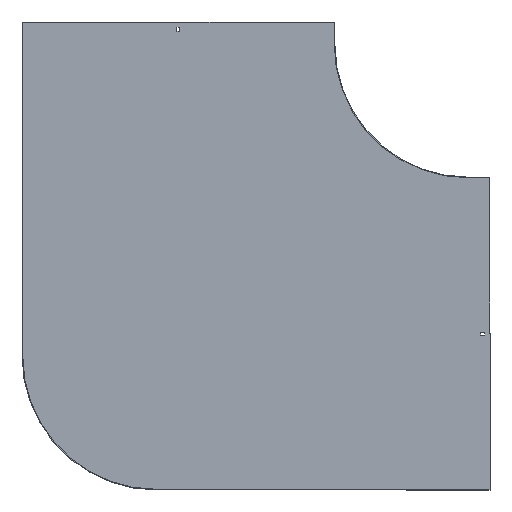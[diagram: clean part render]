
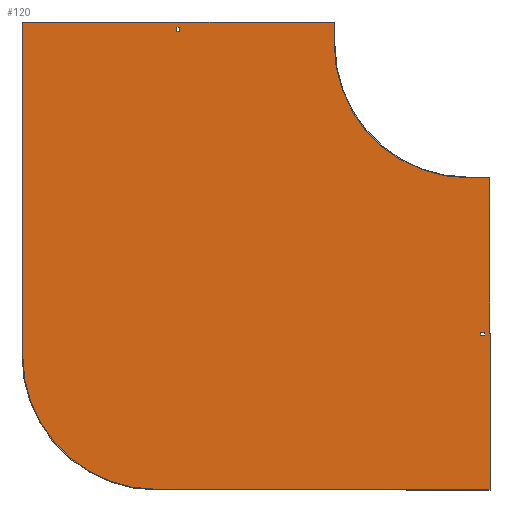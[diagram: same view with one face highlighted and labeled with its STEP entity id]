
A CAD part, front view. The second image highlights one B-rep face of the part: STEP entity #120.
In plain terms, the highlighted planar face has unit normal (0, -1, 0).
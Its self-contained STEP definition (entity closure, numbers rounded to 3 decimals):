
#1 = ORIENTED_EDGE ( 'NONE', *, *, #537, .F. ) ;
#2 = DIRECTION ( 'NONE',  ( 0., 0., -1. ) ) ;
#3 = EDGE_LOOP ( 'NONE', ( #56, #470, #756, #598 ) ) ;
#17 = VERTEX_POINT ( 'NONE', #231 ) ;
#19 = CARTESIAN_POINT ( 'NONE',  ( 50., -1.5, -1000. ) ) ;
#23 = AXIS2_PLACEMENT_3D ( 'NONE', #448, #400, #308 ) ;
#36 = CARTESIAN_POINT ( 'NONE',  ( -653.25, -1.5, 38. ) ) ;
#43 = EDGE_CURVE ( 'NONE', #776, #17, #712, .T. ) ;
#56 = ORIENTED_EDGE ( 'NONE', *, *, #487, .F. ) ;
#57 = DIRECTION ( 'NONE',  ( -1., 0., 0. ) ) ;
#60 = CARTESIAN_POINT ( 'NONE',  ( 0., -1.5, 0. ) ) ;
#69 = VERTEX_POINT ( 'NONE', #302 ) ;
#76 = ORIENTED_EDGE ( 'NONE', *, *, #235, .F. ) ;
#81 = VECTOR ( 'NONE', #214, 1000. ) ;
#85 = CARTESIAN_POINT ( 'NONE',  ( 0., -1.5, -653.25 ) ) ;
#87 = ORIENTED_EDGE ( 'NONE', *, *, #684, .F. ) ;
#96 = ORIENTED_EDGE ( 'NONE', *, *, #648, .T. ) ;
#98 = CARTESIAN_POINT ( 'NONE',  ( 0., -1.5, 0. ) ) ;
#100 = VERTEX_POINT ( 'NONE', #637 ) ;
#105 = ORIENTED_EDGE ( 'NONE', *, *, #394, .T. ) ;
#112 = EDGE_LOOP ( 'NONE', ( #841, #256, #747, #87, #144, #1, #76, #266 ) ) ;
#120 = ADVANCED_FACE ( 'NONE', ( #449, #441, #174 ), #523, .T. ) ;
#125 = CARTESIAN_POINT ( 'NONE',  ( -1001.5, -1.5, 50. ) ) ;
#144 = ORIENTED_EDGE ( 'NONE', *, *, #506, .F. ) ;
#151 = CARTESIAN_POINT ( 'NONE',  ( 0., -1.5, -646.75 ) ) ;
#165 = LINE ( 'NONE', #432, #797 ) ;
#167 = DIRECTION ( 'NONE',  ( 0., -1., 0. ) ) ;
#174 = FACE_BOUND ( 'NONE', #614, .T. ) ;
#175 = VERTEX_POINT ( 'NONE', #676 ) ;
#185 = VERTEX_POINT ( 'NONE', #375 ) ;
#193 = VERTEX_POINT ( 'NONE', #858 ) ;
#198 = LINE ( 'NONE', #125, #735 ) ;
#214 = DIRECTION ( 'NONE',  ( 1., 0., 0. ) ) ;
#217 = CARTESIAN_POINT ( 'NONE',  ( 29., -1.5, -646.75 ) ) ;
#219 = DIRECTION ( 'NONE',  ( 1., 0., 0. ) ) ;
#223 = DIRECTION ( 'NONE',  ( -1., 0., 0. ) ) ;
#224 = CARTESIAN_POINT ( 'NONE',  ( -1000., -1.5, -700. ) ) ;
#231 = CARTESIAN_POINT ( 'NONE',  ( -646.75, -1.5, 38. ) ) ;
#235 = EDGE_CURVE ( 'NONE', #790, #69, #762, .T. ) ;
#245 = LINE ( 'NONE', #704, #581 ) ;
#251 = CARTESIAN_POINT ( 'NONE',  ( -300., -1.5, 0. ) ) ;
#256 = ORIENTED_EDGE ( 'NONE', *, *, #268, .F. ) ;
#266 = ORIENTED_EDGE ( 'NONE', *, *, #655, .F. ) ;
#268 = EDGE_CURVE ( 'NONE', #862, #633, #654, .T. ) ;
#275 = CARTESIAN_POINT ( 'NONE',  ( -300., -1.5, 50. ) ) ;
#276 = CARTESIAN_POINT ( 'NONE',  ( 29., -1.5, -653.25 ) ) ;
#281 = CARTESIAN_POINT ( 'NONE',  ( 38., -1.5, -646.75 ) ) ;
#286 = DIRECTION ( 'NONE',  ( -1., 0., 0. ) ) ;
#287 = CARTESIAN_POINT ( 'NONE',  ( 50., -1.5, -298.5 ) ) ;
#292 = LINE ( 'NONE', #151, #301 ) ;
#300 = EDGE_CURVE ( 'NONE', #100, #185, #397, .T. ) ;
#301 = VECTOR ( 'NONE', #223, 1000. ) ;
#302 = CARTESIAN_POINT ( 'NONE',  ( 0., -1.5, -300. ) ) ;
#308 = DIRECTION ( 'NONE',  ( 0., 0., -1. ) ) ;
#316 = ORIENTED_EDGE ( 'NONE', *, *, #300, .T. ) ;
#318 = DIRECTION ( 'NONE',  ( 0., 0., 1. ) ) ;
#321 = LINE ( 'NONE', #590, #750 ) ;
#335 = DIRECTION ( 'NONE',  ( 0., -1., 0. ) ) ;
#343 = VECTOR ( 'NONE', #430, 1000. ) ;
#355 = CARTESIAN_POINT ( 'NONE',  ( 50., -1.5, -300. ) ) ;
#366 = CARTESIAN_POINT ( 'NONE',  ( 38., -1.5, 0. ) ) ;
#375 = CARTESIAN_POINT ( 'NONE',  ( -653.25, -1.5, 29. ) ) ;
#377 = CARTESIAN_POINT ( 'NONE',  ( 0., -1.5, 38. ) ) ;
#382 = AXIS2_PLACEMENT_3D ( 'NONE', #60, #335, #814 ) ;
#387 = VERTEX_POINT ( 'NONE', #281 ) ;
#393 = DIRECTION ( 'NONE',  ( 1., 0., 0. ) ) ;
#394 = EDGE_CURVE ( 'NONE', #185, #776, #529, .T. ) ;
#395 = CARTESIAN_POINT ( 'NONE',  ( 50., -1.5, -1000. ) ) ;
#397 = LINE ( 'NONE', #527, #579 ) ;
#400 = DIRECTION ( 'NONE',  ( 0., 1., 0. ) ) ;
#422 = DIRECTION ( 'NONE',  ( 0., 0., 1. ) ) ;
#430 = DIRECTION ( 'NONE',  ( 1., 0., 0. ) ) ;
#432 = CARTESIAN_POINT ( 'NONE',  ( 0., -1.5, -300. ) ) ;
#441 = FACE_OUTER_BOUND ( 'NONE', #112, .T. ) ;
#442 = AXIS2_PLACEMENT_3D ( 'NONE', #98, #167, #708 ) ;
#448 = CARTESIAN_POINT ( 'NONE',  ( -700., -1.5, -700. ) ) ;
#449 = FACE_BOUND ( 'NONE', #3, .T. ) ;
#470 = ORIENTED_EDGE ( 'NONE', *, *, #740, .F. ) ;
#478 = DIRECTION ( 'NONE',  ( 0., 0., 1. ) ) ;
#483 = LINE ( 'NONE', #85, #81 ) ;
#487 = EDGE_CURVE ( 'NONE', #387, #802, #292, .T. ) ;
#490 = LINE ( 'NONE', #19, #545 ) ;
#506 = EDGE_CURVE ( 'NONE', #751, #846, #509, .T. ) ;
#509 = LINE ( 'NONE', #287, #567 ) ;
#510 = VECTOR ( 'NONE', #422, 1000. ) ;
#518 = CARTESIAN_POINT ( 'NONE',  ( -1000., -1.5, 50. ) ) ;
#523 = PLANE ( 'NONE',  #442 ) ;
#527 = CARTESIAN_POINT ( 'NONE',  ( 0., -1.5, 29. ) ) ;
#529 = LINE ( 'NONE', #804, #682 ) ;
#531 = CARTESIAN_POINT ( 'NONE',  ( -1000., -1.5, -700. ) ) ;
#537 = EDGE_CURVE ( 'NONE', #69, #751, #165, .T. ) ;
#545 = VECTOR ( 'NONE', #286, 1000. ) ;
#553 = CARTESIAN_POINT ( 'NONE',  ( -700., -1.5, -1000. ) ) ;
#567 = VECTOR ( 'NONE', #834, 1000. ) ;
#579 = VECTOR ( 'NONE', #57, 1000. ) ;
#581 = VECTOR ( 'NONE', #774, 1000. ) ;
#588 = EDGE_CURVE ( 'NONE', #688, #862, #592, .T. ) ;
#590 = CARTESIAN_POINT ( 'NONE',  ( -646.75, -1.5, 0. ) ) ;
#592 = CIRCLE ( 'NONE', #23, 300. ) ;
#598 = ORIENTED_EDGE ( 'NONE', *, *, #739, .F. ) ;
#614 = EDGE_LOOP ( 'NONE', ( #692, #96, #316, #105 ) ) ;
#615 = DIRECTION ( 'NONE',  ( 0., 0., -1. ) ) ;
#621 = VECTOR ( 'NONE', #318, 1000. ) ;
#633 = VERTEX_POINT ( 'NONE', #518 ) ;
#637 = CARTESIAN_POINT ( 'NONE',  ( -646.75, -1.5, 29. ) ) ;
#648 = EDGE_CURVE ( 'NONE', #17, #100, #321, .T. ) ;
#649 = EDGE_CURVE ( 'NONE', #633, #175, #198, .T. ) ;
#654 = LINE ( 'NONE', #531, #621 ) ;
#655 = EDGE_CURVE ( 'NONE', #175, #790, #823, .T. ) ;
#676 = CARTESIAN_POINT ( 'NONE',  ( -300., -1.5, 50. ) ) ;
#682 = VECTOR ( 'NONE', #478, 1000. ) ;
#684 = EDGE_CURVE ( 'NONE', #846, #688, #490, .T. ) ;
#688 = VERTEX_POINT ( 'NONE', #553 ) ;
#692 = ORIENTED_EDGE ( 'NONE', *, *, #43, .T. ) ;
#704 = CARTESIAN_POINT ( 'NONE',  ( 29., -1.5, 0. ) ) ;
#708 = DIRECTION ( 'NONE',  ( 0., 0., -1. ) ) ;
#712 = LINE ( 'NONE', #377, #343 ) ;
#735 = VECTOR ( 'NONE', #393, 1000. ) ;
#739 = EDGE_CURVE ( 'NONE', #802, #822, #245, .T. ) ;
#740 = EDGE_CURVE ( 'NONE', #193, #387, #759, .T. ) ;
#747 = ORIENTED_EDGE ( 'NONE', *, *, #588, .F. ) ;
#750 = VECTOR ( 'NONE', #2, 1000. ) ;
#751 = VERTEX_POINT ( 'NONE', #355 ) ;
#756 = ORIENTED_EDGE ( 'NONE', *, *, #806, .F. ) ;
#759 = LINE ( 'NONE', #366, #510 ) ;
#762 = CIRCLE ( 'NONE', #382, 300. ) ;
#774 = DIRECTION ( 'NONE',  ( 0., 0., -1. ) ) ;
#776 = VERTEX_POINT ( 'NONE', #36 ) ;
#783 = VECTOR ( 'NONE', #615, 1000. ) ;
#790 = VERTEX_POINT ( 'NONE', #251 ) ;
#797 = VECTOR ( 'NONE', #219, 1000. ) ;
#802 = VERTEX_POINT ( 'NONE', #217 ) ;
#804 = CARTESIAN_POINT ( 'NONE',  ( -653.25, -1.5, 0. ) ) ;
#806 = EDGE_CURVE ( 'NONE', #822, #193, #483, .T. ) ;
#814 = DIRECTION ( 'NONE',  ( 0., 0., -1. ) ) ;
#822 = VERTEX_POINT ( 'NONE', #276 ) ;
#823 = LINE ( 'NONE', #275, #783 ) ;
#834 = DIRECTION ( 'NONE',  ( 0., 0., -1. ) ) ;
#841 = ORIENTED_EDGE ( 'NONE', *, *, #649, .F. ) ;
#846 = VERTEX_POINT ( 'NONE', #395 ) ;
#858 = CARTESIAN_POINT ( 'NONE',  ( 38., -1.5, -653.25 ) ) ;
#862 = VERTEX_POINT ( 'NONE', #224 ) ;
